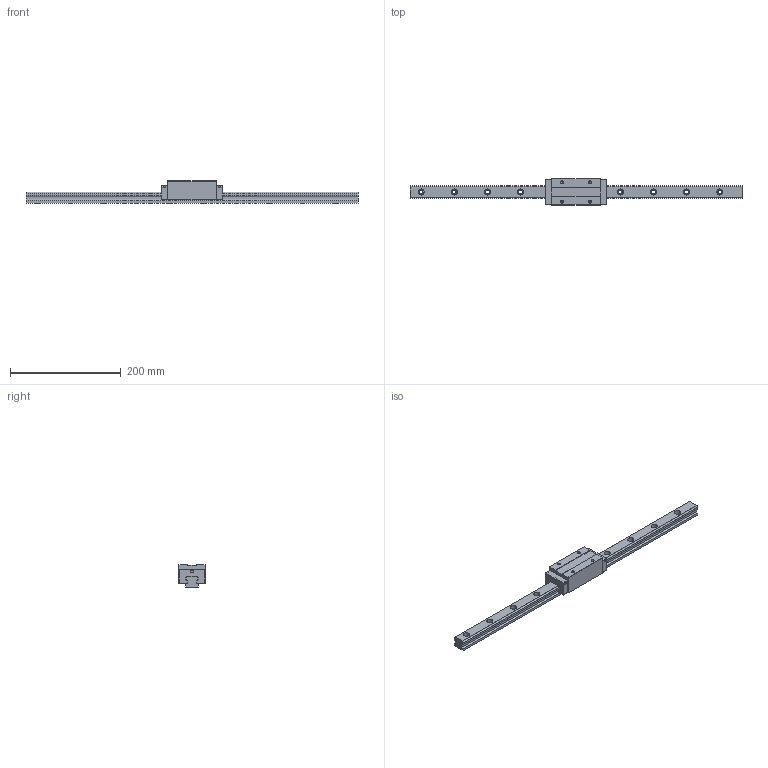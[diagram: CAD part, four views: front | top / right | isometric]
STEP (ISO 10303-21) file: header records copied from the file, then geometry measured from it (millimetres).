
FILE_DESCRIPTION (( 'STEP AP203' ), '1' );
FILE_NAME ('TRH25VE-XN.STEP', '2024-05-17T06:04:06', ( '' ), ( '' ), 'SwSTEP 2.0', 'SolidWorks 2022', '' );
FILE_SCHEMA (( 'CONFIG_CONTROL_DESIGN' ));
Length unit declared in the file: millimetre
Products named in the file (1): TRH25VE-XN
Bounding box: 600 x 48 x 40 mm (x, y, z)
Volume: 372192.3 mm3; surface area: 83467.9 mm2
Topology: 2 solids, 2 shells, 200 faces, 520 edges, 336 vertices
Faces by surface type: cylinder 96, plane 88, cone 16
Entity records: 6223 total; most frequent: DIRECTION 1114, CARTESIAN_POINT 1049, ORIENTED_EDGE 1024, EDGE_CURVE 512, AXIS2_PLACEMENT_3D 401, VERTEX_POINT 336, VECTOR 312, LINE 312
